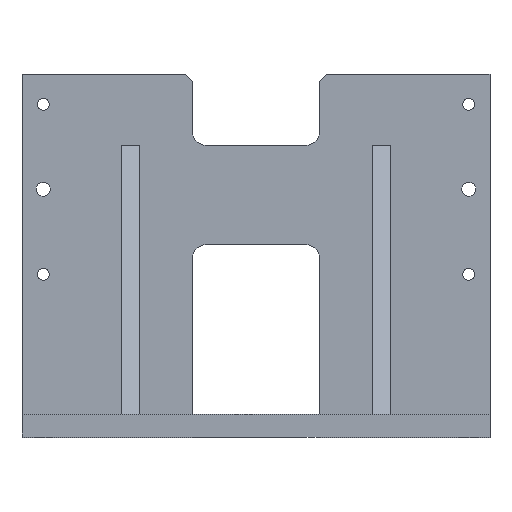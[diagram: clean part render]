
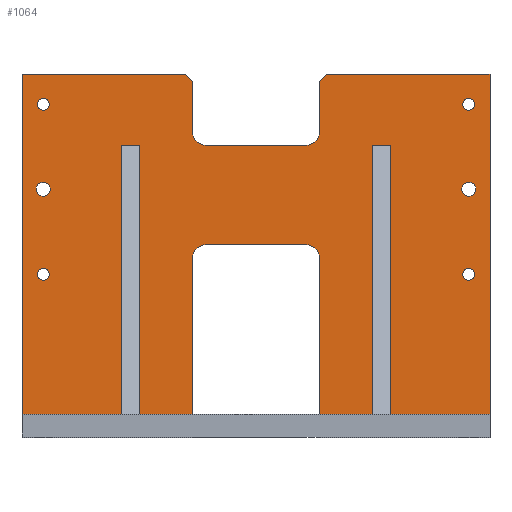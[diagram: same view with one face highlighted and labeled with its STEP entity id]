
A CAD part, top view. The second image highlights one B-rep face of the part: STEP entity #1064.
In plain terms, the highlighted planar face has unit normal (0, 0, 1).
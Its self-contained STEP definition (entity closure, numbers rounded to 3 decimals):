
#30=FACE_BOUND($,#174,.T.);
#31=FACE_BOUND($,#175,.T.);
#32=FACE_BOUND($,#176,.T.);
#33=FACE_BOUND($,#177,.T.);
#34=FACE_BOUND($,#178,.T.);
#35=FACE_BOUND($,#179,.T.);
#67=PLANE($,#1147);
#105=FACE_OUTER_BOUND($,#173,.T.);
#173=EDGE_LOOP($,(#858,#859,#860,#861,#862,#863,#864,#865,#866,#867,#868,
#869,#870,#871,#872,#873,#874,#875,#876,#877,#878,#879,#880,#881,#882,#883));
#174=EDGE_LOOP($,(#884));
#175=EDGE_LOOP($,(#885));
#176=EDGE_LOOP($,(#886));
#177=EDGE_LOOP($,(#887));
#178=EDGE_LOOP($,(#888));
#179=EDGE_LOOP($,(#889));
#225=LINE($,#1484,#327);
#235=LINE($,#1508,#337);
#242=LINE($,#1525,#344);
#244=LINE($,#1529,#346);
#248=LINE($,#1537,#350);
#252=LINE($,#1545,#354);
#256=LINE($,#1552,#358);
#277=LINE($,#1620,#379);
#283=LINE($,#1631,#385);
#292=LINE($,#1665,#394);
#294=LINE($,#1669,#396);
#298=LINE($,#1680,#400);
#299=LINE($,#1683,#401);
#300=LINE($,#1685,#402);
#301=LINE($,#1686,#403);
#302=LINE($,#1688,#404);
#303=LINE($,#1689,#405);
#304=LINE($,#1691,#406);
#305=LINE($,#1692,#407);
#306=LINE($,#1694,#408);
#307=LINE($,#1696,#409);
#308=LINE($,#1697,#410);
#327=VECTOR($,#1205,70.);
#337=VECTOR($,#1223,110.);
#344=VECTOR($,#1238,110.);
#346=VECTOR($,#1242,37.3);
#350=VECTOR($,#1246,70.);
#354=VECTOR($,#1250,70.);
#358=VECTOR($,#1254,37.3);
#379=VECTOR($,#1317,7.071);
#385=VECTOR($,#1325,35.);
#394=VECTOR($,#1354,7.071);
#396=VECTOR($,#1358,35.);
#400=VECTOR($,#1372,70.);
#401=VECTOR($,#1375,190.);
#402=VECTOR($,#1376,12.7);
#403=VECTOR($,#1377,190.);
#404=VECTOR($,#1378,240.);
#405=VECTOR($,#1379,115.);
#406=VECTOR($,#1380,115.);
#407=VECTOR($,#1381,240.);
#408=VECTOR($,#1382,190.);
#409=VECTOR($,#1383,12.7);
#410=VECTOR($,#1384,190.);
#423=CIRCLE($,#1098,10.);
#425=CIRCLE($,#1102,10.);
#448=CIRCLE($,#1143,10.);
#449=CIRCLE($,#1145,10.);
#450=CIRCLE($,#1148,5.);
#451=CIRCLE($,#1149,5.);
#452=CIRCLE($,#1150,4.188);
#453=CIRCLE($,#1151,4.188);
#454=CIRCLE($,#1152,4.188);
#455=CIRCLE($,#1153,4.188);
#464=VERTEX_POINT($,#1474);
#465=VERTEX_POINT($,#1476);
#467=VERTEX_POINT($,#1482);
#469=VERTEX_POINT($,#1488);
#477=VERTEX_POINT($,#1506);
#483=VERTEX_POINT($,#1524);
#484=VERTEX_POINT($,#1528);
#487=VERTEX_POINT($,#1534);
#488=VERTEX_POINT($,#1536);
#491=VERTEX_POINT($,#1542);
#492=VERTEX_POINT($,#1544);
#495=VERTEX_POINT($,#1550);
#520=VERTEX_POINT($,#1618);
#521=VERTEX_POINT($,#1619);
#525=VERTEX_POINT($,#1629);
#539=VERTEX_POINT($,#1662);
#540=VERTEX_POINT($,#1664);
#541=VERTEX_POINT($,#1668);
#542=VERTEX_POINT($,#1672);
#543=VERTEX_POINT($,#1676);
#544=VERTEX_POINT($,#1682);
#545=VERTEX_POINT($,#1684);
#546=VERTEX_POINT($,#1687);
#547=VERTEX_POINT($,#1690);
#548=VERTEX_POINT($,#1693);
#549=VERTEX_POINT($,#1695);
#550=VERTEX_POINT($,#1698);
#551=VERTEX_POINT($,#1700);
#552=VERTEX_POINT($,#1702);
#553=VERTEX_POINT($,#1704);
#554=VERTEX_POINT($,#1706);
#555=VERTEX_POINT($,#1708);
#565=EDGE_CURVE($,#464,#465,#423,.T.);
#569=EDGE_CURVE($,#464,#467,#225,.T.);
#572=EDGE_CURVE($,#469,#467,#425,.T.);
#581=EDGE_CURVE($,#469,#477,#235,.T.);
#590=EDGE_CURVE($,#483,#465,#242,.T.);
#592=EDGE_CURVE($,#484,#483,#244,.T.);
#596=EDGE_CURVE($,#488,#487,#248,.T.);
#600=EDGE_CURVE($,#492,#491,#252,.T.);
#604=EDGE_CURVE($,#477,#495,#256,.T.);
#637=EDGE_CURVE($,#520,#521,#277,.T.);
#643=EDGE_CURVE($,#520,#525,#283,.T.);
#660=EDGE_CURVE($,#539,#540,#292,.T.);
#662=EDGE_CURVE($,#541,#540,#294,.T.);
#664=EDGE_CURVE($,#542,#525,#448,.T.);
#666=EDGE_CURVE($,#541,#543,#449,.T.);
#668=EDGE_CURVE($,#542,#543,#298,.T.);
#669=EDGE_CURVE($,#495,#544,#299,.T.);
#670=EDGE_CURVE($,#544,#545,#300,.T.);
#671=EDGE_CURVE($,#545,#492,#301,.T.);
#672=EDGE_CURVE($,#491,#546,#302,.T.);
#673=EDGE_CURVE($,#546,#521,#303,.T.);
#674=EDGE_CURVE($,#539,#547,#304,.T.);
#675=EDGE_CURVE($,#547,#488,#305,.T.);
#676=EDGE_CURVE($,#487,#548,#306,.T.);
#677=EDGE_CURVE($,#548,#549,#307,.T.);
#678=EDGE_CURVE($,#549,#484,#308,.T.);
#679=EDGE_CURVE($,#550,#550,#450,.T.);
#680=EDGE_CURVE($,#551,#551,#451,.T.);
#681=EDGE_CURVE($,#552,#552,#452,.T.);
#682=EDGE_CURVE($,#553,#553,#453,.T.);
#683=EDGE_CURVE($,#554,#554,#454,.T.);
#684=EDGE_CURVE($,#555,#555,#455,.T.);
#858=ORIENTED_EDGE($,*,*,#581,.T.);
#859=ORIENTED_EDGE($,*,*,#604,.T.);
#860=ORIENTED_EDGE($,*,*,#669,.T.);
#861=ORIENTED_EDGE($,*,*,#670,.T.);
#862=ORIENTED_EDGE($,*,*,#671,.T.);
#863=ORIENTED_EDGE($,*,*,#600,.T.);
#864=ORIENTED_EDGE($,*,*,#672,.T.);
#865=ORIENTED_EDGE($,*,*,#673,.T.);
#866=ORIENTED_EDGE($,*,*,#637,.F.);
#867=ORIENTED_EDGE($,*,*,#643,.T.);
#868=ORIENTED_EDGE($,*,*,#664,.F.);
#869=ORIENTED_EDGE($,*,*,#668,.T.);
#870=ORIENTED_EDGE($,*,*,#666,.F.);
#871=ORIENTED_EDGE($,*,*,#662,.T.);
#872=ORIENTED_EDGE($,*,*,#660,.F.);
#873=ORIENTED_EDGE($,*,*,#674,.T.);
#874=ORIENTED_EDGE($,*,*,#675,.T.);
#875=ORIENTED_EDGE($,*,*,#596,.T.);
#876=ORIENTED_EDGE($,*,*,#676,.T.);
#877=ORIENTED_EDGE($,*,*,#677,.T.);
#878=ORIENTED_EDGE($,*,*,#678,.T.);
#879=ORIENTED_EDGE($,*,*,#592,.T.);
#880=ORIENTED_EDGE($,*,*,#590,.T.);
#881=ORIENTED_EDGE($,*,*,#565,.F.);
#882=ORIENTED_EDGE($,*,*,#569,.T.);
#883=ORIENTED_EDGE($,*,*,#572,.F.);
#884=ORIENTED_EDGE($,*,*,#679,.T.);
#885=ORIENTED_EDGE($,*,*,#680,.T.);
#886=ORIENTED_EDGE($,*,*,#681,.T.);
#887=ORIENTED_EDGE($,*,*,#682,.T.);
#888=ORIENTED_EDGE($,*,*,#683,.T.);
#889=ORIENTED_EDGE($,*,*,#684,.T.);
#1064=ADVANCED_FACE($,(#105,#30,#31,#32,#33,#34,#35),#67,.T.);
#1098=AXIS2_PLACEMENT_3D($,#1477,#1198,#1199);
#1102=AXIS2_PLACEMENT_3D($,#1490,#1211,#1212);
#1143=AXIS2_PLACEMENT_3D($,#1673,#1362,#1363);
#1145=AXIS2_PLACEMENT_3D($,#1677,#1367,#1368);
#1147=AXIS2_PLACEMENT_3D($,#1681,#1373,#1374);
#1148=AXIS2_PLACEMENT_3D($,#1699,#1385,#1386);
#1149=AXIS2_PLACEMENT_3D($,#1701,#1387,#1388);
#1150=AXIS2_PLACEMENT_3D($,#1703,#1389,#1390);
#1151=AXIS2_PLACEMENT_3D($,#1705,#1391,#1392);
#1152=AXIS2_PLACEMENT_3D($,#1707,#1393,#1394);
#1153=AXIS2_PLACEMENT_3D($,#1709,#1395,#1396);
#1198=DIRECTION('center_axis',(0.,0.,1.));
#1199=DIRECTION('ref_axis',(-0.707,0.707,0.));
#1205=DIRECTION($,(1.,0.,0.));
#1211=DIRECTION('center_axis',(0.,0.,1.));
#1212=DIRECTION('ref_axis',(0.707,0.707,0.));
#1223=DIRECTION($,(0.,-1.,0.));
#1238=DIRECTION($,(0.,1.,0.));
#1242=DIRECTION($,(1.,0.,0.));
#1246=DIRECTION($,(1.,0.,0.));
#1250=DIRECTION($,(1.,0.,0.));
#1254=DIRECTION($,(1.,0.,0.));
#1317=DIRECTION($,(0.707,0.707,0.));
#1325=DIRECTION($,(0.,-1.,0.));
#1354=DIRECTION($,(0.707,-0.707,0.));
#1358=DIRECTION($,(0.,1.,0.));
#1362=DIRECTION('center_axis',(0.,0.,1.));
#1363=DIRECTION('ref_axis',(0.707,-0.707,0.));
#1367=DIRECTION('center_axis',(0.,0.,1.));
#1368=DIRECTION('ref_axis',(-0.707,-0.707,0.));
#1372=DIRECTION($,(-1.,0.,0.));
#1373=DIRECTION('center_axis',(0.,0.,1.));
#1374=DIRECTION('ref_axis',(1.,0.,0.));
#1375=DIRECTION($,(0.,1.,0.));
#1376=DIRECTION($,(1.,0.,0.));
#1377=DIRECTION($,(0.,-1.,0.));
#1378=DIRECTION($,(0.,1.,0.));
#1379=DIRECTION($,(-1.,0.,0.));
#1380=DIRECTION($,(-1.,0.,0.));
#1381=DIRECTION($,(0.,-1.,0.));
#1382=DIRECTION($,(0.,1.,0.));
#1383=DIRECTION($,(1.,0.,0.));
#1384=DIRECTION($,(0.,-1.,0.));
#1385=DIRECTION('center_axis',(0.,0.,-1.));
#1386=DIRECTION('ref_axis',(-1.,0.,0.));
#1387=DIRECTION('center_axis',(0.,0.,-1.));
#1388=DIRECTION('ref_axis',(-1.,0.,0.));
#1389=DIRECTION('center_axis',(0.,0.,-1.));
#1390=DIRECTION('ref_axis',(-1.,0.,0.));
#1391=DIRECTION('center_axis',(0.,0.,-1.));
#1392=DIRECTION('ref_axis',(-1.,0.,0.));
#1393=DIRECTION('center_axis',(0.,0.,-1.));
#1394=DIRECTION('ref_axis',(-1.,0.,0.));
#1395=DIRECTION('center_axis',(0.,0.,-1.));
#1396=DIRECTION('ref_axis',(-1.,0.,0.));
#1474=CARTESIAN_POINT('',(-35.,0.,19.05));
#1476=CARTESIAN_POINT('',(-45.,-10.,19.05));
#1477=CARTESIAN_POINT('Origin',(-35.,-10.,19.05));
#1482=CARTESIAN_POINT('',(35.,0.,19.05));
#1484=CARTESIAN_POINT($,(22.5,0.,19.05));
#1488=CARTESIAN_POINT('',(45.,-10.,19.05));
#1490=CARTESIAN_POINT('Origin',(35.,-10.,19.05));
#1506=CARTESIAN_POINT('',(45.,-120.,19.05));
#1508=CARTESIAN_POINT($,(45.,-68.,19.05));
#1524=CARTESIAN_POINT('',(-45.,-120.,19.05));
#1525=CARTESIAN_POINT($,(-45.,0.,19.05));
#1528=CARTESIAN_POINT('',(-82.3,-120.,19.05));
#1529=CARTESIAN_POINT($,(165.,-120.,19.05));
#1534=CARTESIAN_POINT('',(-95.,-120.,19.05));
#1536=CARTESIAN_POINT('',(-165.,-120.,19.05));
#1537=CARTESIAN_POINT($,(165.,-120.,19.05));
#1542=CARTESIAN_POINT('',(165.,-120.,19.05));
#1544=CARTESIAN_POINT('',(95.,-120.,19.05));
#1545=CARTESIAN_POINT($,(165.,-120.,19.05));
#1550=CARTESIAN_POINT('',(82.3,-120.,19.05));
#1552=CARTESIAN_POINT($,(165.,-120.,19.05));
#1618=CARTESIAN_POINT('',(45.,115.,19.05));
#1619=CARTESIAN_POINT('',(50.,120.,19.05));
#1620=CARTESIAN_POINT($,(6.25,76.25,19.05));
#1629=CARTESIAN_POINT('',(45.,80.,19.05));
#1631=CARTESIAN_POINT($,(45.,60.,19.05));
#1662=CARTESIAN_POINT('',(-50.,120.,19.05));
#1664=CARTESIAN_POINT('',(-45.,115.,19.05));
#1665=CARTESIAN_POINT($,(-6.25,76.25,19.05));
#1668=CARTESIAN_POINT('',(-45.,80.,19.05));
#1669=CARTESIAN_POINT($,(-45.,35.,19.05));
#1672=CARTESIAN_POINT('',(35.,70.,19.05));
#1673=CARTESIAN_POINT('Origin',(35.,80.,19.05));
#1676=CARTESIAN_POINT('',(-35.,70.,19.05));
#1677=CARTESIAN_POINT('Origin',(-35.,80.,19.05));
#1680=CARTESIAN_POINT($,(22.5,70.,19.05));
#1681=CARTESIAN_POINT('Origin',(0.,0.,
19.05));
#1682=CARTESIAN_POINT('',(82.3,70.,19.05));
#1683=CARTESIAN_POINT($,(82.3,-23.558,19.05));
#1684=CARTESIAN_POINT('',(95.,70.,19.05));
#1685=CARTESIAN_POINT($,(47.5,70.,19.05));
#1686=CARTESIAN_POINT($,(95.,-23.558,19.05));
#1687=CARTESIAN_POINT('',(165.,120.,19.05));
#1688=CARTESIAN_POINT($,(165.,120.,19.05));
#1689=CARTESIAN_POINT($,(-165.,120.,19.05));
#1690=CARTESIAN_POINT('',(-165.,120.,19.05));
#1691=CARTESIAN_POINT($,(-165.,120.,19.05));
#1692=CARTESIAN_POINT($,(-165.,-120.,19.05));
#1693=CARTESIAN_POINT('',(-95.,70.,19.05));
#1694=CARTESIAN_POINT($,(-95.,-23.558,19.05));
#1695=CARTESIAN_POINT('',(-82.3,70.,19.05));
#1696=CARTESIAN_POINT($,(-47.5,70.,19.05));
#1697=CARTESIAN_POINT($,(-82.3,-23.558,19.05));
#1698=CARTESIAN_POINT('',(-145.,39.,19.05));
#1699=CARTESIAN_POINT('Origin',(-150.,39.,19.05));
#1700=CARTESIAN_POINT('',(155.,39.,19.05));
#1701=CARTESIAN_POINT('Origin',(150.,39.,19.05));
#1702=CARTESIAN_POINT('',(-145.812,-21.,19.05));
#1703=CARTESIAN_POINT('Origin',(-150.,-21.,19.05));
#1704=CARTESIAN_POINT('',(154.188,99.,19.05));
#1705=CARTESIAN_POINT('Origin',(150.,99.,19.05));
#1706=CARTESIAN_POINT('',(154.188,-21.,19.05));
#1707=CARTESIAN_POINT('Origin',(150.,-21.,19.05));
#1708=CARTESIAN_POINT('',(-145.812,99.,19.05));
#1709=CARTESIAN_POINT('Origin',(-150.,99.,19.05));
